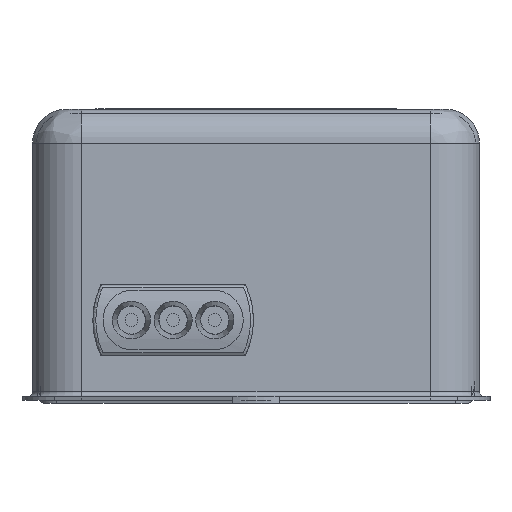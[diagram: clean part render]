
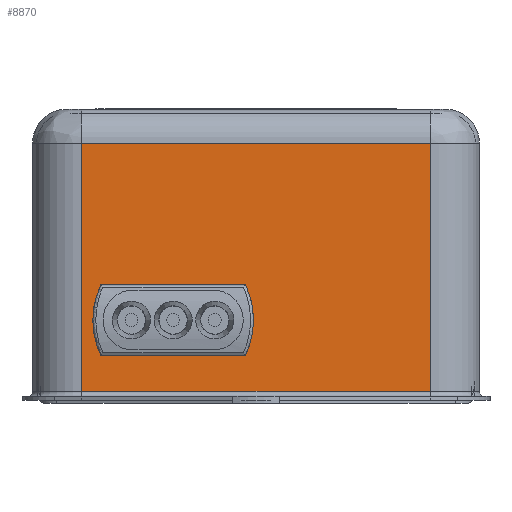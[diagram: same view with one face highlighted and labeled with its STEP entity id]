
A CAD part, left-side view. The second image highlights one B-rep face of the part: STEP entity #8870.
In plain terms, the highlighted planar face has unit normal (-1, 0, 0).
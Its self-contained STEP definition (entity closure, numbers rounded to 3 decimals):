
#600=LINE('',#15244,#1368);
#603=LINE('',#15382,#1371);
#753=LINE('',#16280,#1521);
#763=LINE('',#16329,#1531);
#764=LINE('',#16333,#1532);
#765=LINE('',#16334,#1533);
#1368=VECTOR('',#10851,10.);
#1371=VECTOR('',#10882,10.);
#1521=VECTOR('',#11452,10.);
#1531=VECTOR('',#11512,10.);
#1532=VECTOR('',#11517,10.);
#1533=VECTOR('',#11518,10.);
#1688=FACE_BOUND('',#3122,.T.);
#2079=PLANE('',#9524);
#2529=FACE_OUTER_BOUND('',#3121,.T.);
#3121=EDGE_LOOP('',(#7593,#7594,#7595,#7596));
#3122=EDGE_LOOP('',(#7597,#7598,#7599,#7600));
#3430=CIRCLE('',#9272,8.);
#3431=CIRCLE('',#9276,8.);
#4107=VERTEX_POINT('',#15236);
#4108=VERTEX_POINT('',#15238);
#4109=VERTEX_POINT('',#15242);
#4116=VERTEX_POINT('',#15364);
#4326=VERTEX_POINT('',#16273);
#4329=VERTEX_POINT('',#16278);
#4343=VERTEX_POINT('',#16328);
#4344=VERTEX_POINT('',#16332);
#5128=EDGE_CURVE('',#4108,#4107,#3430,.T.);
#5131=EDGE_CURVE('',#4107,#4109,#600,.T.);
#5139=EDGE_CURVE('',#4109,#4116,#3431,.T.);
#5144=EDGE_CURVE('',#4116,#4108,#603,.T.);
#5437=EDGE_CURVE('',#4329,#4326,#753,.T.);
#5462=EDGE_CURVE('',#4326,#4343,#763,.T.);
#5464=EDGE_CURVE('',#4344,#4329,#764,.T.);
#5465=EDGE_CURVE('',#4343,#4344,#765,.T.);
#7593=ORIENTED_EDGE('',*,*,#5437,.F.);
#7594=ORIENTED_EDGE('',*,*,#5464,.F.);
#7595=ORIENTED_EDGE('',*,*,#5465,.F.);
#7596=ORIENTED_EDGE('',*,*,#5462,.F.);
#7597=ORIENTED_EDGE('',*,*,#5128,.T.);
#7598=ORIENTED_EDGE('',*,*,#5131,.T.);
#7599=ORIENTED_EDGE('',*,*,#5139,.T.);
#7600=ORIENTED_EDGE('',*,*,#5144,.T.);
#8870=ADVANCED_FACE('',(#2529,#1688),#2079,.T.);
#9272=AXIS2_PLACEMENT_3D('',#15239,#10845,#10846);
#9276=AXIS2_PLACEMENT_3D('',#15366,#10857,#10858);
#9524=AXIS2_PLACEMENT_3D('',#16331,#11515,#11516);
#10845=DIRECTION('center_axis',(1.,0.,0.));
#10846=DIRECTION('ref_axis',(0.,-0.899,-0.438));
#10851=DIRECTION('',(0.,-1.,0.));
#10857=DIRECTION('center_axis',(1.,0.,0.));
#10858=DIRECTION('ref_axis',(0.,0.899,0.438));
#10882=DIRECTION('',(0.,1.,0.));
#11452=DIRECTION('',(0.,1.,0.));
#11512=DIRECTION('',(0.,0.,1.));
#11515=DIRECTION('center_axis',(-1.,0.,0.));
#11516=DIRECTION('ref_axis',(0.,-1.,0.));
#11517=DIRECTION('',(0.,0.,-1.));
#11518=DIRECTION('',(0.,-1.,0.));
#15236=CARTESIAN_POINT('',(-25.25,15.444,-3.));
#15238=CARTESIAN_POINT('',(-25.25,15.444,-10.));
#15239=CARTESIAN_POINT('Origin',(-25.25,8.25,-6.5));
#15242=CARTESIAN_POINT('',(-25.25,1.056,-3.));
#15244=CARTESIAN_POINT('',(-25.25,18.847,-3.));
#15364=CARTESIAN_POINT('',(-25.25,1.056,-10.));
#15366=CARTESIAN_POINT('Origin',(-25.25,8.25,-6.5));
#15382=CARTESIAN_POINT('',(-25.25,11.653,-10.));
#16273=CARTESIAN_POINT('',(-25.25,17.35,-13.6));
#16278=CARTESIAN_POINT('',(-25.25,-17.35,-13.6));
#16280=CARTESIAN_POINT('',(-25.25,11.125,-13.6));
#16328=CARTESIAN_POINT('',(-25.25,17.35,11.1));
#16329=CARTESIAN_POINT('',(-25.25,17.35,0.));
#16331=CARTESIAN_POINT('Origin',(-25.25,22.25,0.));
#16332=CARTESIAN_POINT('',(-25.25,-17.35,11.1));
#16333=CARTESIAN_POINT('',(-25.25,-17.35,0.));
#16334=CARTESIAN_POINT('',(-25.25,11.125,11.1));
